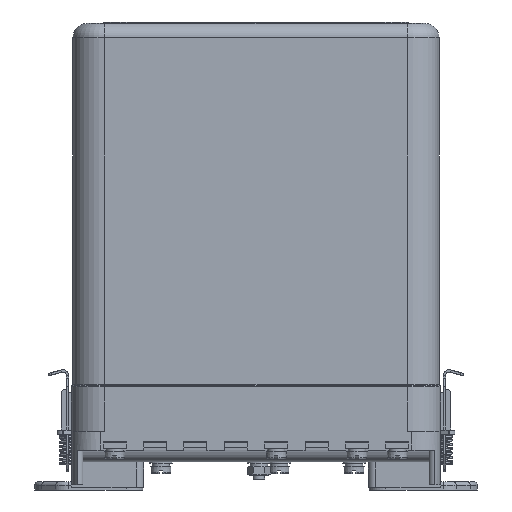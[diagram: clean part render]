
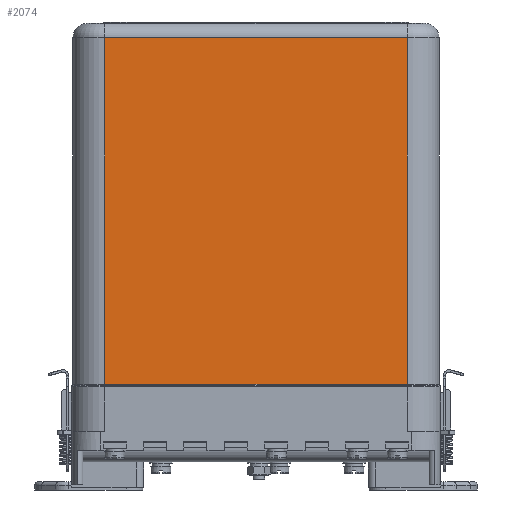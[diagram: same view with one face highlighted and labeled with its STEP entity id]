
A CAD part, left-side view. The second image highlights one B-rep face of the part: STEP entity #2074.
In plain terms, the highlighted planar face has unit normal (-1, 0, 0).
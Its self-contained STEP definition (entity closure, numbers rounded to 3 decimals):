
#2074=ADVANCED_FACE('',(#13376),#13378,.T.);
#13376=FACE_BOUND('',#13377,.T.);
#13377=EDGE_LOOP('',(#31999,#32000,#32001,#32002));
#13378=PLANE('',#13379);
#13379=AXIS2_PLACEMENT_3D('',#13380,#13381,#13382);
#13380=CARTESIAN_POINT('',(-56.5,52.5,19.5));
#13381=DIRECTION('',(-1.,0.,0.));
#13382=DIRECTION('',(0.,-1.,0.));
#31999=ORIENTED_EDGE('',*,*,#38164,.T.);
#32000=ORIENTED_EDGE('',*,*,#38165,.F.);
#32001=ORIENTED_EDGE('',*,*,#37902,.F.);
#32002=ORIENTED_EDGE('',*,*,#38166,.T.);
#37902=EDGE_CURVE('',#41651,#41652,#41653,.F.);
#38164=EDGE_CURVE('',#42119,#42120,#42121,.F.);
#38165=EDGE_CURVE('',#41652,#42120,#42122,.T.);
#38166=EDGE_CURVE('',#41651,#42119,#42123,.T.);
#41651=VERTEX_POINT('',#48469);
#41652=VERTEX_POINT('',#48470);
#41653=LINE('',#48471,#48472);
#42119=VERTEX_POINT('',#49568);
#42120=VERTEX_POINT('',#49569);
#42121=LINE('',#49570,#49571);
#42122=LINE('',#49573,#49574);
#42123=LINE('',#49576,#49577);
#48469=CARTESIAN_POINT('',(-56.5,-52.5,35.866));
#48470=CARTESIAN_POINT('',(-56.5,52.5,35.866));
#48471=CARTESIAN_POINT('',(-56.5,52.5,35.866));
#48472=VECTOR('',#48473,1.);
#48473=DIRECTION('',(0.,-1.,0.));
#49568=CARTESIAN_POINT('',(-56.5,-52.5,156.));
#49569=CARTESIAN_POINT('',(-56.5,52.5,156.));
#49570=CARTESIAN_POINT('',(-56.5,52.5,156.));
#49571=VECTOR('',#49572,1.);
#49572=DIRECTION('',(0.,-1.,0.));
#49573=CARTESIAN_POINT('',(-56.5,52.5,35.866));
#49574=VECTOR('',#49575,1.);
#49575=DIRECTION('',(0.,0.,1.));
#49576=CARTESIAN_POINT('',(-56.5,-52.5,35.866));
#49577=VECTOR('',#49578,1.);
#49578=DIRECTION('',(0.,0.,1.));
